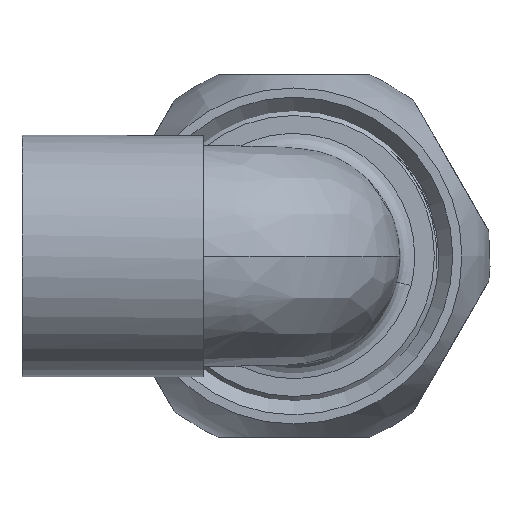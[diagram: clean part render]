
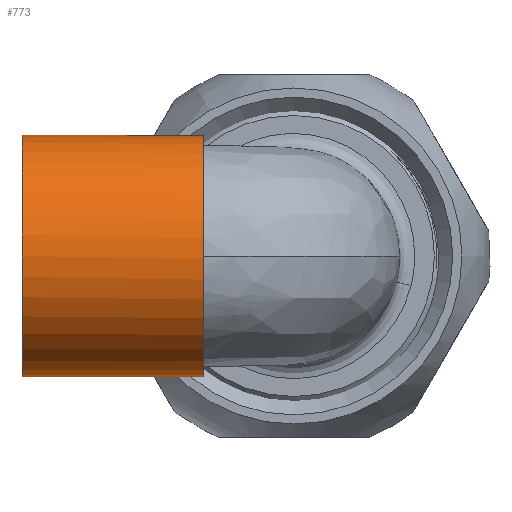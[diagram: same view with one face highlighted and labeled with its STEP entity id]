
A CAD part, left-side view. The second image highlights one B-rep face of the part: STEP entity #773.
In plain terms, the highlighted cylindrical face has radius 8 mm (diameter 16 mm), a full revolution.
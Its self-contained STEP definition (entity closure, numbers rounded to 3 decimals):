
#716=CARTESIAN_POINT('',(0.0,0.0,0.0));
#717=DIRECTION('',(0.0,-1.0,0.0));
#718=DIRECTION('',(0.0,0.0,-1.0));
#719=AXIS2_PLACEMENT_3D('',#716,#717,#718);
#720=CYLINDRICAL_SURFACE('',#719,8.0);
#721=CARTESIAN_POINT('',(0.0,18.0,-8.0));
#722=VERTEX_POINT('',#721);
#723=CARTESIAN_POINT('',(0.0,18.0,0.0));
#724=DIRECTION('',(0.0,-1.0,0.0));
#725=DIRECTION('',(0.0,0.0,-1.0));
#726=AXIS2_PLACEMENT_3D('',#723,#724,#725);
#727=CIRCLE('',#726,8.0);
#728=EDGE_CURVE('',#722,#722,#727,.T.);
#729=ORIENTED_EDGE('',*,*,#728,.T.);
#730=EDGE_LOOP('',(#729));
#731=FACE_OUTER_BOUND('',#730,.T.);
#732=CARTESIAN_POINT('',(5.79,6.,5.521));
#733=VERTEX_POINT('',#732);
#734=CARTESIAN_POINT('',(5.79,6.,-5.521));
#735=VERTEX_POINT('',#734);
#736=CARTESIAN_POINT('',(0.0,6.,0.0));
#737=DIRECTION('',(0.0,-1.0,0.0));
#738=DIRECTION('',(0.0,0.0,-1.0));
#739=AXIS2_PLACEMENT_3D('',#736,#737,#738);
#740=CIRCLE('',#739,8.0);
#741=EDGE_CURVE('',#733,#735,#740,.T.);
#742=ORIENTED_EDGE('',*,*,#741,.F.);
#743=CARTESIAN_POINT('',(8.0,7.678,0.));
#744=VERTEX_POINT('',#743);
#745=CARTESIAN_POINT('',(5.79,6.,5.521));
#746=CARTESIAN_POINT('',(6.11,6.273,5.185));
#747=CARTESIAN_POINT('',(6.414,6.507,4.807));
#748=CARTESIAN_POINT('',(6.955,6.912,3.983));
#749=CARTESIAN_POINT('',(7.193,7.085,3.539));
#750=CARTESIAN_POINT('',(7.586,7.371,2.592));
#751=CARTESIAN_POINT('',(7.74,7.483,2.092));
#752=CARTESIAN_POINT('',(7.947,7.636,1.059));
#753=CARTESIAN_POINT('',(8.,7.678,0.531));
#754=CARTESIAN_POINT('',(8.0,7.678,0.));
#755=B_SPLINE_CURVE_WITH_KNOTS('',3,(#745,#746,#747,#748,#749,#750,#751,#752,#753,#754),.UNSPECIFIED.,.F.,.U.,(4,2,2,2,4),(0.,0.162,0.321,0.482,0.642),.UNSPECIFIED.);
#756=EDGE_CURVE('',#733,#744,#755,.T.);
#757=ORIENTED_EDGE('',*,*,#756,.T.);
#758=CARTESIAN_POINT('',(8.0,7.678,0.));
#759=CARTESIAN_POINT('',(8.,7.678,-0.531));
#760=CARTESIAN_POINT('',(7.947,7.636,-1.059));
#761=CARTESIAN_POINT('',(7.74,7.483,-2.092));
#762=CARTESIAN_POINT('',(7.586,7.371,-2.592));
#763=CARTESIAN_POINT('',(7.193,7.085,-3.539));
#764=CARTESIAN_POINT('',(6.955,6.912,-3.983));
#765=CARTESIAN_POINT('',(6.414,6.507,-4.807));
#766=CARTESIAN_POINT('',(6.11,6.273,-5.185));
#767=CARTESIAN_POINT('',(5.79,6.,-5.521));
#768=B_SPLINE_CURVE_WITH_KNOTS('',3,(#758,#759,#760,#761,#762,#763,#764,#765,#766,#767),.UNSPECIFIED.,.F.,.U.,(4,2,2,2,4),(0.,0.159,0.319,0.477,0.638),.UNSPECIFIED.);
#769=EDGE_CURVE('',#744,#735,#768,.T.);
#770=ORIENTED_EDGE('',*,*,#769,.T.);
#771=EDGE_LOOP('',(#742,#757,#770));
#772=FACE_BOUND('',#771,.T.);
#773=ADVANCED_FACE('',(#731,#772),#720,.T.);
